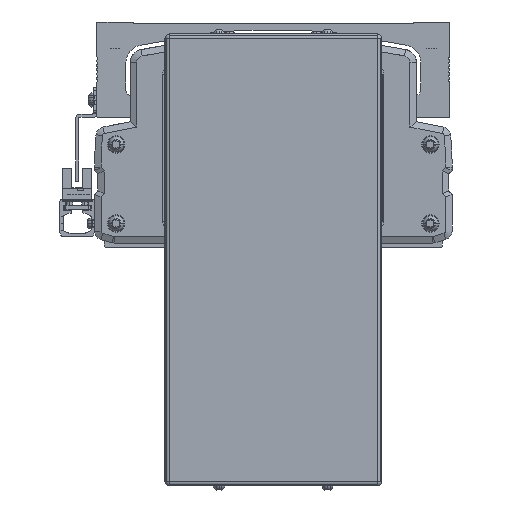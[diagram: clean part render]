
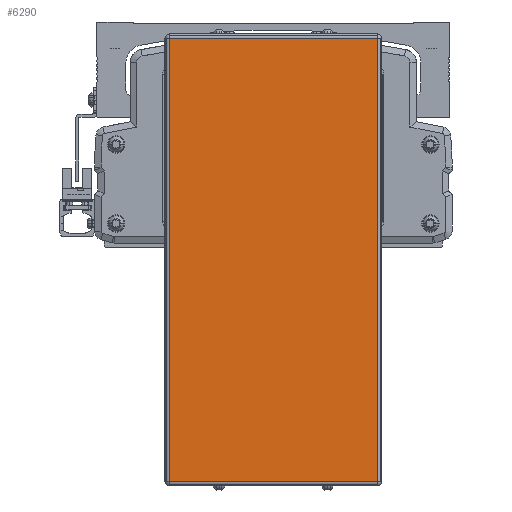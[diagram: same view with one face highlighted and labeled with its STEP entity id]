
A CAD part, front view. The second image highlights one B-rep face of the part: STEP entity #6290.
In plain terms, the highlighted planar face has unit normal (0, -1, 0).
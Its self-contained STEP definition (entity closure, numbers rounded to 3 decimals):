
#6290=ADVANCED_FACE('',(#13983),#13984,.T.);
#13983=FACE_OUTER_BOUND('',#24184,.T.);
#13984=PLANE('',#24185);
#24184=EDGE_LOOP('',(#43632,#43633,#43634,#43635));
#24185=AXIS2_PLACEMENT_3D('',#43636,#43637,#43638);
#43632=ORIENTED_EDGE('',*,*,#60781,.F.);
#43633=ORIENTED_EDGE('',*,*,#63541,.F.);
#43634=ORIENTED_EDGE('',*,*,#63816,.F.);
#43635=ORIENTED_EDGE('',*,*,#63817,.F.);
#43636=CARTESIAN_POINT('',(-600.,-522.778,-57.8));
#43637=DIRECTION('',(0.,-1.0,0.));
#43638=DIRECTION('',(0.,0.,-1.0));
#60781=EDGE_CURVE('',#73727,#74221,#74222,.T.);
#63541=EDGE_CURVE('',#74345,#73727,#78295,.T.);
#63816=EDGE_CURVE('',#77885,#74345,#78656,.T.);
#63817=EDGE_CURVE('',#74221,#77885,#78657,.T.);
#73727=VERTEX_POINT('',#92351);
#74221=VERTEX_POINT('',#93100);
#74222=LINE('',#93101,#93102);
#74345=VERTEX_POINT('',#93263);
#77885=VERTEX_POINT('',#98614);
#78295=LINE('',#99246,#99247);
#78656=LINE('',#99800,#99801);
#78657=LINE('',#99802,#99803);
#92351=CARTESIAN_POINT('',(-648.,-522.778,44.5));
#93100=CARTESIAN_POINT('',(-552.,-522.778,44.5));
#93101=CARTESIAN_POINT('',(-600.,-522.778,44.5));
#93102=VECTOR('',#110961,10.0);
#93263=CARTESIAN_POINT('',(-648.,-522.778,-160.1));
#98614=CARTESIAN_POINT('',(-552.,-522.778,-160.1));
#99246=CARTESIAN_POINT('',(-648.,-522.778,-57.8));
#99247=VECTOR('',#114255,10.0);
#99800=CARTESIAN_POINT('',(-600.,-522.778,-160.1));
#99801=VECTOR('',#114565,10.0);
#99802=CARTESIAN_POINT('',(-552.,-522.778,-57.8));
#99803=VECTOR('',#114566,10.0);
#110961=DIRECTION('',(1.0,0.,0.));
#114255=DIRECTION('',(0.,0.,1.0));
#114565=DIRECTION('',(-1.0,0.,0.));
#114566=DIRECTION('',(0.,0.,-1.0));
